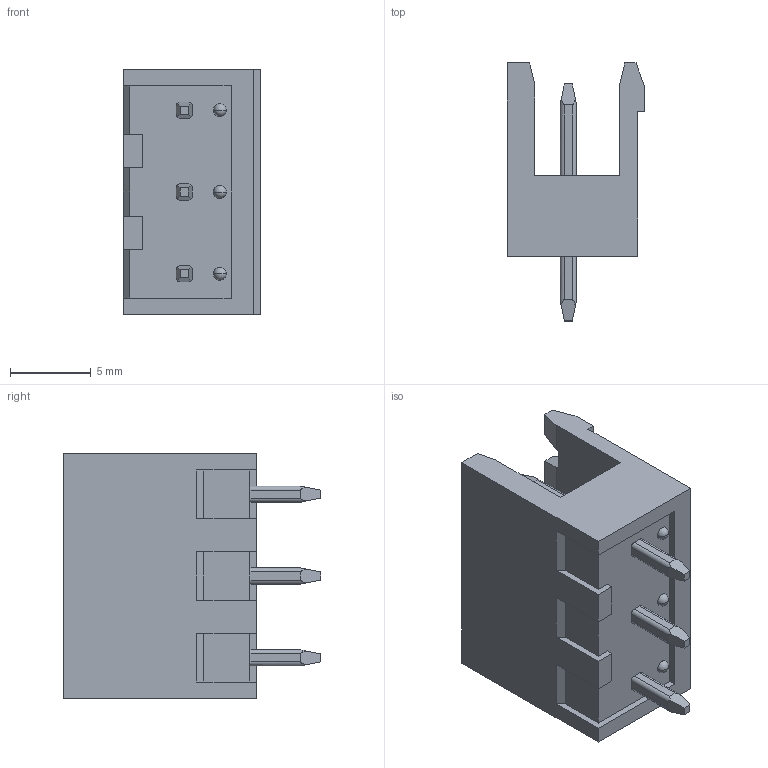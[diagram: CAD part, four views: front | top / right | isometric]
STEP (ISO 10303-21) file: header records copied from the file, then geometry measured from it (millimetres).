
FILE_DESCRIPTION((''),'2;1');
FILE_NAME('333','2019-04-08T',('zhenbing.lai'),(''),'CREO PARAMETRIC BY PTC INC, 2016260','CREO PARAMETRIC BY PTC INC, 2016260','');
FILE_SCHEMA(('CONFIG_CONTROL_DESIGN'));
Length unit declared in the file: millimetre
Products named in the file (1): 333
Bounding box: 8.55 x 16 x 15.24 mm (x, y, z)
Volume: 839.5 mm3; surface area: 1069.5 mm2
Topology: 1 solids, 1 shells, 147 faces, 405 edges, 263 vertices
Faces by surface type: plane 111, cylinder 27, sphere 6, cone 3
Entity records: 4808 total; most frequent: CARTESIAN_POINT 1121, ORIENTED_EDGE 798, DIRECTION 684, EDGE_CURVE 399, VECTOR 300, LINE 300, VERTEX_POINT 263, AXIS2_PLACEMENT_3D 192
